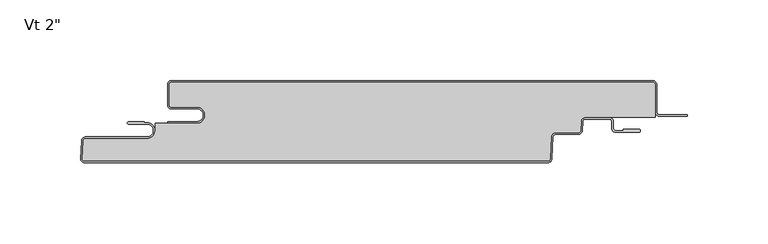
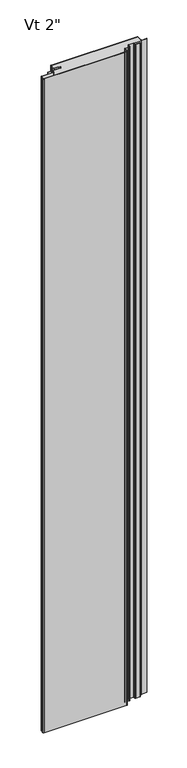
"""IFC4 building model written with IfcOpenShell, lengths in millimetres: plate geometry."""

from ifc_helpers import new_model, si_unit, point, frame, frame_2d, origin, origin_with_axes, place, context, project, spatial, polyline, circle_curve, ellipse_curve, trimmed, segment, composite_curve, outline, extrude, source, transform, mapped, element, save
from ifc_brep_helpers import plane_surface, cylinder_surface, revolved_surface, extruded_surface, advanced_brep


def plate_51471944(model_context):
    return source(origin(), model_context, "Body", "SolidModel", [
        extrude(outline(composite_curve([segment(trimmed(circle_curve(frame_2d((107.3558457, -25.4)), 2.5875), [point((107.3558457, -22.8125))], [point((104.7718918, -25.2645807))], True, "CARTESIAN"), True, "CONTINUOUS"), segment(polyline([(104.7718918, -25.2645807), (104.4698155, -31.028539)]), True, "CONTINUOUS"), segment(trimmed(circle_curve(frame_2d((103.0904585, -30.95625)), 1.38125), [point((104.4698155, -31.028539))], [point((103.0904585, -32.3375))], False, "CARTESIAN"), True, "CONTINUOUS"), segment(polyline([(103.0904585, -32.3375), (88.9198847, -32.3375)]), True, "CONTINUOUS"), segment(trimmed(circle_curve(frame_2d((88.9198847, -34.925)), 2.5875), [point((88.9198847, -32.3375))], [point((86.3359307, -34.7895807))], True, "CARTESIAN"), True, "CONTINUOUS"), segment(polyline([(86.3359307, -34.7895807), (85.6178677, -48.491039)]), True, "CONTINUOUS"), segment(trimmed(circle_curve(frame_2d((84.2385107, -48.41875)), 1.38125), [point((85.6178677, -48.491039))], [point((84.2385107, -49.8))], False, "CARTESIAN"), True, "CONTINUOUS"), segment(polyline([(84.2385107, -49.8), (-203.0781861, -49.8)]), True, "CONTINUOUS"), segment(trimmed(circle_curve(frame_2d((-203.0781861, -48.41875)), 1.38125), [point((-203.0781861, -49.8))], [point((-204.4575431, -48.346461))], False, "CARTESIAN"), True, "CONTINUOUS"), segment(polyline([(-204.4575431, -48.346461), (-203.8751617, -37.233961)]), True, "CONTINUOUS"), segment(trimmed(circle_curve(frame_2d((-202.4958046, -37.30625)), 1.38125), [point((-203.8751617, -37.233961))], [point((-202.4958046, -35.925))], False, "CARTESIAN"), True, "CONTINUOUS"), segment(polyline([(-202.4958046, -35.925), (-164.3125, -35.925)]), True, "CONTINUOUS"), segment(trimmed(circle_curve(frame_2d((-164.3125, -30.95625)), 4.96875), [point((-164.3125, -35.925))], [point((-159.34375, -30.95625))], True, "CARTESIAN"), True, "CONTINUOUS"), segment(polyline([(-159.34375, -30.95625), (-159.34375, -26.4), (-133.35625, -26.4)]), True, "CONTINUOUS"), segment(trimmed(circle_curve(frame_2d((-133.35625, -21.43125)), 4.96875), [point((-133.35625, -26.4))], [point((-133.35625, -16.4625))], True, "CARTESIAN"), True, "CONTINUOUS"), segment(polyline([(-133.35625, -16.4625), (-149.23125, -16.4625)]), True, "CONTINUOUS"), segment(trimmed(circle_curve(frame_2d((-149.23125, -15.08125)), 1.38125), [point((-149.23125, -16.4625))], [point((-150.6125, -15.08125))], False, "CARTESIAN"), True, "CONTINUOUS"), segment(polyline([(-150.6125, -15.08125), (-150.6125, -2.38125)]), True, "CONTINUOUS"), segment(trimmed(circle_curve(frame_2d((-149.23125, -2.38125)), 1.38125), [point((-150.6125, -2.38125))], [point((-149.23125, -1.0))], False, "CARTESIAN"), True, "CONTINUOUS"), segment(polyline([(-149.23125, -1.0), (149.21875, -1.0)]), True, "CONTINUOUS"), segment(trimmed(circle_curve(frame_2d((149.21875, -2.38125)), 1.38125), [point((149.21875, -1.0))], [point((150.6, -2.38125))], False, "CARTESIAN"), True, "CONTINUOUS"), segment(polyline([(150.6, -2.38125), (150.6, -22.8125), (107.3558457, -22.8125)]), True, "CONTINUOUS")], self_intersect=False)), origin_with_axes(), (0.0, 0.0, 1.0), 2400.0),
        extrude(outline(composite_curve([segment(polyline([(-151.6125, -25.4), (-133.35625, -25.4)]), True, "CONTINUOUS"), segment(trimmed(circle_curve(frame_2d((-133.35625, -21.43125)), 3.96875), [point((-133.35625, -25.4))], [point((-133.35625, -17.4625))], True, "CARTESIAN"), True, "CONTINUOUS"), segment(polyline([(-133.35625, -17.4625), (-149.23125, -17.4625)]), True, "CONTINUOUS"), segment(trimmed(circle_curve(frame_2d((-149.23125, -15.08125)), 2.38125), [point((-149.23125, -17.4625))], [point((-151.6125, -15.08125))], False, "CARTESIAN"), True, "CONTINUOUS"), segment(polyline([(-151.6125, -15.08125), (-151.6125, -2.38125)]), True, "CONTINUOUS"), segment(trimmed(circle_curve(frame_2d((-149.23125, -2.38125)), 2.38125), [point((-151.6125, -2.38125))], [point((-149.23125, 0.0))], False, "CARTESIAN"), True, "CONTINUOUS"), segment(polyline([(-149.23125, 0.0), (149.21875, 0.0)]), True, "CONTINUOUS"), segment(trimmed(circle_curve(frame_2d((149.21875, -2.38125)), 2.38125), [point((149.21875, 0.0))], [point((151.6, -2.38125))], False, "CARTESIAN"), True, "CONTINUOUS"), segment(polyline([(151.6, -2.38125), (151.6, -19.446875)]), True, "CONTINUOUS"), segment(trimmed(circle_curve(frame_2d((153.1875, -19.446875)), 1.5875), [point((151.6, -19.446875))], [point((153.1875, -21.034375))], True, "CARTESIAN"), True, "CONTINUOUS"), segment(polyline([(153.1875, -21.034375), (170.65, -21.034375), (170.65, -22.034375), (153.1875, -22.034375)]), True, "CONTINUOUS"), segment(trimmed(circle_curve(frame_2d((153.1875, -19.446875)), 2.5875), [point((153.1875, -22.034375))], [point((150.6, -19.446875))], False, "CARTESIAN"), True, "CONTINUOUS"), segment(polyline([(150.6, -19.446875), (150.6, -2.38125)]), True, "CONTINUOUS"), segment(trimmed(circle_curve(frame_2d((149.21875, -2.38125)), 1.38125), [point((150.6, -2.38125))], [point((149.21875, -1.0))], True, "CARTESIAN"), True, "CONTINUOUS"), segment(polyline([(149.21875, -1.0), (-149.23125, -1.0)]), True, "CONTINUOUS"), segment(trimmed(circle_curve(frame_2d((-149.23125, -2.38125)), 1.38125), [point((-149.23125, -1.0))], [point((-150.6125, -2.38125))], True, "CARTESIAN"), True, "CONTINUOUS"), segment(polyline([(-150.6125, -2.38125), (-150.6125, -15.08125)]), True, "CONTINUOUS"), segment(trimmed(circle_curve(frame_2d((-149.23125, -15.08125)), 1.38125), [point((-150.6125, -15.08125))], [point((-149.23125, -16.4625))], True, "CARTESIAN"), True, "CONTINUOUS"), segment(polyline([(-149.23125, -16.4625), (-133.35625, -16.4625)]), True, "CONTINUOUS"), segment(trimmed(circle_curve(frame_2d((-133.35625, -21.43125)), 4.96875), [point((-133.35625, -16.4625))], [point((-133.35625, -26.4))], False, "CARTESIAN"), True, "CONTINUOUS"), segment(polyline([(-133.35625, -26.4), (-151.6125, -26.4), (-151.6125, -25.4)]), True, "CONTINUOUS")], self_intersect=False)), origin_with_axes(), (0.0, 0.0, 1.0), 2400.0),
        advanced_brep(
        [(-175.6377049, -25.4, 2400.0), (-175.6377049, -26.9875, 2400.0), (-164.3267674, -26.9875, 2400.0), (-164.3267674, -34.925, 2400.0), (-202.5100721, -34.925, 2400.0), (-204.8880586, -37.181625, 2400.0), (-205.4704401, -48.294125, 2400.0), (-203.0924535, -50.8, 2400.0), (84.2385107, -50.8, 2400.0), (86.6164973, -48.543375, 2400.0), (87.3345603, -34.8419167, 2400.0), (88.9198847, -33.3375, 2400.0), (103.0761911, -33.3375, 2400.0), (105.4541776, -31.080875, 2400.0), (105.7562539, -25.3169167, 2400.0), (107.3415783, -23.8125, 2400.0), (122.2169826, -23.8125, 2400.0), (123.8044826, -25.4, 2400.0), (123.8044826, -29.5671875, 2400.0), (126.1857326, -31.9484375, 2400.0), (140.6773532, -31.9484375, 2400.0), (140.6773532, -30.1546875, 2400.0), (130.9482326, -30.1546875, 2400.0), (130.9482326, -30.9484375, 2400.0), (126.1857326, -30.9484375, 2400.0), (124.8044826, -29.5671875, 2400.0), (124.8044826, -25.4, 2400.0), (122.2169826, -22.8125, 2400.0), (107.3415783, -22.8125, 2400.0), (104.7576244, -25.2645807, 2400.0), (104.4555481, -31.028539, 2400.0), (103.0761911, -32.3375, 2400.0), (88.9198847, -32.3375, 2400.0), (86.3359307, -34.7895807, 2400.0), (85.6178677, -48.491039, 2400.0), (84.2385107, -49.8, 2400.0), (-203.0924535, -49.8, 2400.0), (-204.4718106, -48.346461, 2400.0), (-203.8894291, -37.233961, 2400.0), (-202.5100721, -35.925, 2400.0), (-164.3267674, -35.925, 2400.0), (-164.3267674, -25.9875, 2400.0), (-165.9142674, -26.19375, 2400.0), (-165.9142674, -25.4, 2400.0), (-175.6377049, -25.4, 0.0), (-165.9142674, -25.4, 0.0), (-165.9142674, -26.19375, 0.0), (-164.3267674, -25.9875, 0.0), (-164.3267674, -35.925, 0.0), (-202.5100721, -35.925, 0.0), (-203.8894291, -37.233961, 0.0), (-204.4718106, -48.346461, 0.0), (-203.0924535, -49.8, 0.0), (84.2385107, -49.8, 0.0), (85.6178677, -48.491039, 0.0), (86.3359307, -34.7895807, 0.0), (88.9198847, -32.3375, 0.0), (103.0761911, -32.3375, 0.0), (104.4555481, -31.028539, 0.0), (104.7576244, -25.2645807, 0.0), (107.3415783, -22.8125, 0.0), (122.2169826, -22.8125, 0.0), (124.8044826, -25.4, 0.0), (124.8044826, -29.5671875, 0.0), (126.1857326, -30.9484375, 0.0), (130.9482326, -30.9484375, 0.0), (130.9482326, -30.1546875, 0.0), (140.6773532, -30.1546875, 0.0), (140.6773532, -31.9484375, 0.0), (126.1857326, -31.9484375, 0.0), (123.8044826, -29.5671875, 0.0), (123.8044826, -25.4, 0.0), (122.2169826, -23.8125, 0.0), (107.3415783, -23.8125, 0.0), (105.7562539, -25.3169167, 0.0), (105.4541776, -31.080875, 0.0), (103.0761911, -33.3375, 0.0), (88.9198847, -33.3375, 0.0), (87.3345603, -34.8419167, 0.0), (86.6164973, -48.543375, 0.0), (84.2385107, -50.8, 0.0), (-203.0924535, -50.8, 0.0), (-205.4704401, -48.294125, 0.0), (-204.8880586, -37.181625, 0.0), (-202.5100721, -34.925, 0.0), (-164.3267674, -34.925, 0.0), (-164.3267674, -26.9875, 0.0), (-175.6377049, -26.9875, 0.0)],
        [
            (0, 1, circle_curve(frame((-175.6377049, -26.19375, 2400.0), z_axis=(0.0, 0.0, 1.0), x_axis=(-1.0, 0.0, 0.0)), 0.79375)),
            (1, 2),
            (2, 3, circle_curve(frame((-164.3267674, -30.95625, 2400.0), z_axis=(0.0, 0.0, -1.0), x_axis=(-1.0, 0.0, 0.0)), 3.96875)),
            (3, 4),
            (4, 5, circle_curve(frame((-202.5100721, -37.30625, 2400.0), z_axis=(0.0, 0.0, 1.0), x_axis=(-1.0, 0.0, 0.0)), 2.38125)),
            (5, 6),
            (6, 7, circle_curve(frame((-203.0924535, -48.41875, 2400.0), z_axis=(0.0, 0.0, 1.0), x_axis=(-1.0, 0.0, 0.0)), 2.38125)),
            (7, 8),
            (8, 9, circle_curve(frame((84.2385107, -48.41875, 2400.0), z_axis=(0.0, 0.0, 1.0), x_axis=(-1.0, 0.0, 0.0)), 2.38125)),
            (9, 10),
            (10, 11, circle_curve(frame((88.9198847, -34.925, 2400.0), z_axis=(0.0, 0.0, -1.0), x_axis=(-1.0, 0.0, 0.0)), 1.5875)),
            (11, 12),
            (12, 13, circle_curve(frame((103.0761911, -30.95625, 2400.0), z_axis=(0.0, 0.0, 1.0), x_axis=(-1.0, 0.0, 0.0)), 2.38125)),
            (13, 14),
            (14, 15, circle_curve(frame((107.3415783, -25.4, 2400.0), z_axis=(0.0, 0.0, -1.0), x_axis=(-1.0, 0.0, 0.0)), 1.5875)),
            (15, 16),
            (16, 17, circle_curve(frame((122.2169826, -25.4, 2400.0), z_axis=(0.0, 0.0, -1.0), x_axis=(-1.0, 0.0, 0.0)), 1.5875)),
            (17, 18),
            (18, 19, circle_curve(frame((126.1857326, -29.5671875, 2400.0), z_axis=(0.0, 0.0, 1.0), x_axis=(-1.0, 0.0, 0.0)), 2.38125)),
            (19, 20),
            (20, 21, ellipse_curve(frame((140.6773532, -31.0515625, 2400.0), z_axis=(0.0, 0.0, 1.0), x_axis=(0.0, 1.0, 0.0)), 0.896875, 0.7852275)),
            (21, 22),
            (22, 23),
            (23, 24),
            (24, 25, circle_curve(frame((126.1857326, -29.5671875, 2400.0), z_axis=(0.0, 0.0, -1.0), x_axis=(-1.0, 0.0, 0.0)), 1.38125)),
            (25, 26),
            (26, 27, circle_curve(frame((122.2169826, -25.4, 2400.0), z_axis=(0.0, 0.0, 1.0), x_axis=(-1.0, 0.0, 0.0)), 2.5875)),
            (27, 28),
            (28, 29, circle_curve(frame((107.3415783, -25.4, 2400.0), z_axis=(0.0, 0.0, 1.0), x_axis=(-1.0, 0.0, 0.0)), 2.5875)),
            (29, 30),
            (30, 31, circle_curve(frame((103.0761911, -30.95625, 2400.0), z_axis=(0.0, 0.0, -1.0), x_axis=(-1.0, 0.0, 0.0)), 1.38125)),
            (31, 32),
            (32, 33, circle_curve(frame((88.9198847, -34.925, 2400.0), z_axis=(0.0, 0.0, 1.0), x_axis=(-1.0, 0.0, 0.0)), 2.5875)),
            (33, 34),
            (34, 35, circle_curve(frame((84.2385107, -48.41875, 2400.0), z_axis=(0.0, 0.0, -1.0), x_axis=(-1.0, 0.0, 0.0)), 1.38125)),
            (35, 36),
            (36, 37, circle_curve(frame((-203.0924535, -48.41875, 2400.0), z_axis=(0.0, 0.0, -1.0), x_axis=(-1.0, 0.0, 0.0)), 1.38125)),
            (37, 38),
            (38, 39, circle_curve(frame((-202.5100721, -37.30625, 2400.0), z_axis=(0.0, 0.0, -1.0), x_axis=(-1.0, 0.0, 0.0)), 1.38125)),
            (39, 40),
            (40, 41, circle_curve(frame((-164.3267674, -30.95625, 2400.0), z_axis=(0.0, 0.0, 1.0), x_axis=(-1.0, 0.0, 0.0)), 4.96875)),
            (41, 42),
            (42, 43),
            (43, 0),
            (44, 45),
            (45, 46),
            (46, 47),
            (47, 48, circle_curve(frame((-164.3267674, -30.95625, 0.0), z_axis=(0.0, 0.0, -1.0), x_axis=(-1.0, 0.0, 0.0)), 4.96875)),
            (48, 49),
            (49, 50, circle_curve(frame((-202.5100721, -37.30625, 0.0), z_axis=(0.0, 0.0, 1.0), x_axis=(-1.0, 0.0, 0.0)), 1.38125)),
            (50, 51),
            (51, 52, circle_curve(frame((-203.0924535, -48.41875, 0.0), z_axis=(0.0, 0.0, 1.0), x_axis=(-1.0, 0.0, 0.0)), 1.38125)),
            (52, 53),
            (53, 54, circle_curve(frame((84.2385107, -48.41875, 0.0), z_axis=(0.0, 0.0, 1.0), x_axis=(-1.0, 0.0, 0.0)), 1.38125)),
            (54, 55),
            (55, 56, circle_curve(frame((88.9198847, -34.925, 0.0), z_axis=(0.0, 0.0, -1.0), x_axis=(-1.0, 0.0, 0.0)), 2.5875)),
            (56, 57),
            (57, 58, circle_curve(frame((103.0761911, -30.95625, 0.0), z_axis=(0.0, 0.0, 1.0), x_axis=(-1.0, 0.0, 0.0)), 1.38125)),
            (58, 59),
            (59, 60, circle_curve(frame((107.3415783, -25.4, 0.0), z_axis=(0.0, 0.0, -1.0), x_axis=(-1.0, 0.0, 0.0)), 2.5875)),
            (60, 61),
            (61, 62, circle_curve(frame((122.2169826, -25.4, 0.0), z_axis=(0.0, 0.0, -1.0), x_axis=(-1.0, 0.0, 0.0)), 2.5875)),
            (62, 63),
            (63, 64, circle_curve(frame((126.1857326, -29.5671875, 0.0), z_axis=(0.0, 0.0, 1.0), x_axis=(-1.0, 0.0, 0.0)), 1.38125)),
            (64, 65),
            (65, 66),
            (66, 67),
            (67, 68, ellipse_curve(frame((140.6773532, -31.0515625, 0.0), z_axis=(0.0, 0.0, -1.0), x_axis=(0.0, 1.0, 0.0)), 0.896875, 0.7852275)),
            (68, 69),
            (69, 70, circle_curve(frame((126.1857326, -29.5671875, 0.0), z_axis=(0.0, 0.0, -1.0), x_axis=(-1.0, 0.0, 0.0)), 2.38125)),
            (70, 71),
            (71, 72, circle_curve(frame((122.2169826, -25.4, 0.0), z_axis=(0.0, 0.0, 1.0), x_axis=(-1.0, 0.0, 0.0)), 1.5875)),
            (72, 73),
            (73, 74, circle_curve(frame((107.3415783, -25.4, 0.0), z_axis=(0.0, 0.0, 1.0), x_axis=(-1.0, 0.0, 0.0)), 1.5875)),
            (74, 75),
            (75, 76, circle_curve(frame((103.0761911, -30.95625, 0.0), z_axis=(0.0, 0.0, -1.0), x_axis=(-1.0, 0.0, 0.0)), 2.38125)),
            (76, 77),
            (77, 78, circle_curve(frame((88.9198847, -34.925, 0.0), z_axis=(0.0, 0.0, 1.0), x_axis=(-1.0, 0.0, 0.0)), 1.5875)),
            (78, 79),
            (79, 80, circle_curve(frame((84.2385107, -48.41875, 0.0), z_axis=(0.0, 0.0, -1.0), x_axis=(-1.0, 0.0, 0.0)), 2.38125)),
            (80, 81),
            (81, 82, circle_curve(frame((-203.0924535, -48.41875, 0.0), z_axis=(0.0, 0.0, -1.0), x_axis=(-1.0, 0.0, 0.0)), 2.38125)),
            (82, 83),
            (83, 84, circle_curve(frame((-202.5100721, -37.30625, 0.0), z_axis=(0.0, 0.0, -1.0), x_axis=(-1.0, 0.0, 0.0)), 2.38125)),
            (84, 85),
            (85, 86, circle_curve(frame((-164.3267674, -30.95625, 0.0), z_axis=(0.0, 0.0, 1.0), x_axis=(-1.0, 0.0, 0.0)), 3.96875)),
            (86, 87),
            (87, 44, circle_curve(frame((-175.6377049, -26.19375, 0.0), z_axis=(0.0, 0.0, -1.0), x_axis=(-1.0, 0.0, 0.0)), 0.79375)),
            (43, 45),
            (44, 0),
            (87, 1),
            (86, 2),
            (85, 3),
            (84, 4),
            (83, 5),
            (82, 6),
            (81, 7),
            (80, 8),
            (79, 9),
            (78, 10),
            (77, 11),
            (76, 12),
            (75, 13),
            (74, 14),
            (73, 15),
            (38, 50),
            (49, 39),
            (37, 51),
            (36, 52),
            (35, 53),
            (34, 54),
            (33, 55),
            (32, 56),
            (31, 57),
            (30, 58),
            (29, 59),
            (28, 60),
            (23, 65),
            (64, 24),
            (63, 25),
            (62, 26),
            (72, 16),
            (71, 17),
            (70, 18),
            (69, 19),
            (68, 20),
            (27, 61),
            (48, 40),
            (47, 41),
            (42, 46),
            (22, 66),
            (21, 67),
        ],
        [
            plane_surface(frame((-0.00625, -50.8, 2400.0), z_axis=(0.0, 0.0, 1.0), x_axis=(0.0, -1.0, 0.0))),
            plane_surface(frame((-0.00625, -50.8, 0.0), z_axis=(0.0, 0.0, -1.0), x_axis=(0.0, -1.0, 0.0))),
            plane_surface(frame((-175.6377049, -25.4, 2400.0), z_axis=(0.0, 1.0, 0.0), x_axis=(0.0, 0.0, -1.0))),
            cylinder_surface(frame((-175.6377049, -26.19375, 2400.0), z_axis=(0.0, 0.0, 1.0), x_axis=(-1.0, 0.0, 0.0)), 0.79375),
            plane_surface(frame((-164.3267674, -26.9875, 2400.0), z_axis=(0.0, -1.0, 0.0), x_axis=(0.0, 0.0, -1.0))),
            revolved_surface(polyline([(-168.2955174, -30.95625, 0.0), (-168.2955174, -30.95625, 2400.0)]), (-164.3267674, -30.95625, 2400.0), (0.0, 0.0, -1.0)),
            plane_surface(frame((-202.5100721, -34.925, 2400.0), z_axis=(0.0, 1.0, 0.0), x_axis=(0.0, 0.0, -1.0))),
            cylinder_surface(frame((-202.5100721, -37.30625, 2400.0), z_axis=(0.0, 0.0, 1.0), x_axis=(-1.0, 0.0, 0.0)), 2.38125),
            plane_surface(frame((-205.4704401, -48.294125, 2400.0), z_axis=(-0.9986295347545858, 0.052335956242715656, 0.0), x_axis=(0.0, 0.0, -1.0))),
            cylinder_surface(frame((-203.0924535, -48.41875, 2400.0), z_axis=(0.0, 0.0, 1.0), x_axis=(-1.0, 0.0, 0.0)), 2.38125),
            plane_surface(frame((84.2385107, -50.8, 2400.0), z_axis=(0.0, -1.0, 0.0), x_axis=(0.0, 0.0, -1.0))),
            cylinder_surface(frame((84.2385107, -48.41875, 2400.0), z_axis=(0.0, 0.0, 1.0), x_axis=(-1.0, 0.0, 0.0)), 2.38125),
            plane_surface(frame((87.3345603, -34.8419167, 2400.0), z_axis=(0.9986295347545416, -0.05233595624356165, 0.0), x_axis=(0.0, 0.0, -1.0))),
            revolved_surface(polyline([(87.33238469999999, -34.925, 0.0), (87.33238469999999, -34.925, 2400.0)]), (88.9198847, -34.925, 2400.0), (0.0, 0.0, -1.0)),
            plane_surface(frame((103.0761911, -33.3375, 2400.0), z_axis=(0.0, -1.0, 0.0), x_axis=(0.0, 0.0, -1.0))),
            cylinder_surface(frame((103.0761911, -30.95625, 2400.0), z_axis=(0.0, 0.0, 1.0), x_axis=(-1.0, 0.0, 0.0)), 2.38125),
            plane_surface(frame((105.7562539, -25.3169167, 2400.0), z_axis=(0.9986295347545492, -0.052335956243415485, 0.0), x_axis=(0.0, 0.0, -1.0))),
            revolved_surface(polyline([(105.75407829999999, -25.4, 0.0), (105.75407829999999, -25.4, 2400.0)]), (107.3415783, -25.4, 2400.0), (0.0, 0.0, -1.0)),
            revolved_surface(polyline([(-203.8913221, -37.30625, 0.0), (-203.8913221, -37.30625, 2400.0)]), (-202.5100721, -37.30625, 2400.0), (0.0, 0.0, -1.0)),
            plane_surface(frame((-203.8894291, -37.233961, 2400.0), z_axis=(0.9986295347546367, -0.05233595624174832, 0.0), x_axis=(0.0, 0.0, -1.0))),
            revolved_surface(polyline([(-204.4737035, -48.41875, 0.0), (-204.4737035, -48.41875, 2400.0)]), (-203.0924535, -48.41875, 2400.0), (0.0, 0.0, -1.0)),
            plane_surface(frame((-203.0924535, -49.8, 2400.0), z_axis=(0.0, 1.0, 0.0), x_axis=(0.0, 0.0, -1.0))),
            revolved_surface(polyline([(82.85726070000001, -48.41875, 0.0), (82.85726070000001, -48.41875, 2400.0)]), (84.2385107, -48.41875, 2400.0), (0.0, 0.0, -1.0)),
            plane_surface(frame((85.6178677, -48.491039, 2400.0), z_axis=(-0.9986295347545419, 0.05233595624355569, 0.0), x_axis=(0.0, 0.0, -1.0))),
            cylinder_surface(frame((88.9198847, -34.925, 2400.0), z_axis=(0.0, 0.0, 1.0), x_axis=(-1.0, 0.0, 0.0)), 2.5875),
            plane_surface(frame((88.9198847, -32.3375, 2400.0), z_axis=(0.0, 1.0, 0.0), x_axis=(0.0, 0.0, -1.0))),
            revolved_surface(polyline([(101.69494110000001, -30.95625, 0.0), (101.69494110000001, -30.95625, 2400.0)]), (103.0761911, -30.95625, 2400.0), (0.0, 0.0, -1.0)),
            plane_surface(frame((104.4555481, -31.028539, 2400.0), z_axis=(-0.9986295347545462, 0.05233595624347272, 0.0), x_axis=(0.0, 0.0, -1.0))),
            cylinder_surface(frame((107.3415783, -25.4, 2400.0), z_axis=(0.0, 0.0, 1.0), x_axis=(-1.0, 0.0, 0.0)), 2.5875),
            plane_surface(frame((126.1857326, -30.9484375, 2400.0), z_axis=(0.0, 1.0, 0.0), x_axis=(0.0, 0.0, -1.0))),
            revolved_surface(polyline([(124.8044826, -29.5671875, 0.0), (124.8044826, -29.5671875, 2400.0)]), (126.1857326, -29.5671875, 2400.0), (0.0, 0.0, -1.0)),
            plane_surface(frame((124.8044826, -25.4, 2400.0), z_axis=(1.0, 0.0, 0.0), x_axis=(0.0, 0.0, -1.0))),
            plane_surface(frame((122.2169826, -23.8125, 2400.0), z_axis=(0.0, -1.0, 0.0), x_axis=(0.0, 0.0, -1.0))),
            revolved_surface(polyline([(120.62948259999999, -25.4, 0.0), (120.62948259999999, -25.4, 2400.0)]), (122.2169826, -25.4, 2400.0), (0.0, 0.0, -1.0)),
            plane_surface(frame((123.8044826, -29.5671875, 2400.0), z_axis=(-1.0, 0.0, 0.0), x_axis=(0.0, 0.0, -1.0))),
            cylinder_surface(frame((126.1857326, -29.5671875, 2400.0), z_axis=(0.0, 0.0, 1.0), x_axis=(-1.0, 0.0, 0.0)), 2.38125),
            plane_surface(frame((140.6773532, -31.9484375, 2400.0), z_axis=(0.0, -1.0, 0.0), x_axis=(0.0, 0.0, -1.0))),
            plane_surface(frame((107.3415783, -22.8125, 2400.0), z_axis=(0.0, 1.0, 0.0), x_axis=(0.0, 0.0, -1.0))),
            cylinder_surface(frame((122.2169826, -25.4, 2400.0), z_axis=(0.0, 0.0, 1.0), x_axis=(-1.0, 0.0, 0.0)), 2.5875),
            plane_surface(frame((-164.3267674, -35.925, 2400.0), z_axis=(0.0, -1.0, 0.0), x_axis=(0.0, 0.0, -1.0))),
            cylinder_surface(frame((-164.3267674, -30.95625, 2400.0), z_axis=(0.0, 0.0, 1.0), x_axis=(-1.0, 0.0, 0.0)), 4.96875),
            plane_surface(frame((-165.9142674, -25.4, 2400.0), z_axis=(1.0, 0.0, 0.0), x_axis=(0.0, 0.0, -1.0))),
            plane_surface(frame((-165.9142674, -26.19375, 2400.0), z_axis=(-0.12883844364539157, 0.9916655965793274, 0.0), x_axis=(0.0, 0.0, -1.0))),
            plane_surface(frame((130.9482326, -30.9484375, 2400.0), z_axis=(-1.0, 0.0, 0.0), x_axis=(0.0, 0.0, -1.0))),
            plane_surface(frame((130.9482326, -30.1546875, 2400.0), z_axis=(0.0, 1.0, 0.0), x_axis=(0.0, 0.0, -1.0))),
            extruded_surface(trimmed(ellipse_curve(frame((140.6773532, -31.0515625, 2400.0), z_axis=(0.0, 0.0, -1.0), x_axis=(0.0, 1.0, 0.0)), 0.896875, 0.7852275), [point((140.6773532, -30.1546875, 2400.0))], [point((140.6773532, -31.9484375, 2400.0))], True, "CARTESIAN"), (0.0, 0.0, -2400.0), 2400.0),
        ],
        [
            (0, [[1, 2, 3, 4, 5, 6, 7, 8, 9, 10, 11, 12, 13, 14, 15, 16, 17, 18, 19, 20, 21, 22, 23, 24, 25, 26, 27, 28, 29, 30, 31, 32, 33, 34, 35, 36, 37, 38, 39, 40, 41, 42, 43, 44]]),
            (1, [[45, 46, 47, 48, 49, 50, 51, 52, 53, 54, 55, 56, 57, 58, 59, 60, 61, 62, 63, 64, 65, 66, 67, 68, 69, 70, 71, 72, 73, 74, 75, 76, 77, 78, 79, 80, 81, 82, 83, 84, 85, 86, 87, 88]]),
            (2, [[89, -45, 90, -44]]),
            (3, [[-90, -88, 91, -1]]),
            (4, [[-91, -87, 92, -2]]),
            (5, [[-92, -86, 93, -3]]),
            (6, [[-93, -85, 94, -4]]),
            (7, [[-94, -84, 95, -5]]),
            (8, [[-95, -83, 96, -6]]),
            (9, [[-96, -82, 97, -7]]),
            (10, [[-97, -81, 98, -8]]),
            (11, [[-98, -80, 99, -9]]),
            (12, [[-99, -79, 100, -10]]),
            (13, [[-100, -78, 101, -11]]),
            (14, [[-101, -77, 102, -12]]),
            (15, [[-102, -76, 103, -13]]),
            (16, [[-103, -75, 104, -14]]),
            (17, [[-104, -74, 105, -15]]),
            (18, [[106, -50, 107, -39]]),
            (19, [[108, -51, -106, -38]]),
            (20, [[109, -52, -108, -37]]),
            (21, [[110, -53, -109, -36]]),
            (22, [[111, -54, -110, -35]]),
            (23, [[112, -55, -111, -34]]),
            (24, [[113, -56, -112, -33]]),
            (25, [[114, -57, -113, -32]]),
            (26, [[115, -58, -114, -31]]),
            (27, [[116, -59, -115, -30]]),
            (28, [[117, -60, -116, -29]]),
            (29, [[118, -65, 119, -24]]),
            (30, [[-119, -64, 120, -25]]),
            (31, [[-120, -63, 121, -26]]),
            (32, [[-105, -73, 122, -16]]),
            (33, [[-122, -72, 123, -17]]),
            (34, [[-123, -71, 124, -18]]),
            (35, [[-124, -70, 125, -19]]),
            (36, [[-125, -69, 126, -20]]),
            (37, [[127, -61, -117, -28]]),
            (38, [[-121, -62, -127, -27]]),
            (39, [[-107, -49, 128, -40]]),
            (40, [[-128, -48, 129, -41]]),
            (41, [[130, -46, -89, -43]]),
            (42, [[-129, -47, -130, -42]]),
            (43, [[131, -66, -118, -23]]),
            (44, [[132, -67, -131, -22]]),
            (45, [[-126, -68, -132, -21]]),
        ],
    ),
    ])


if __name__ == "__main__":
    model = new_model("IFC4")
    model_context = context("Model", 3, world=origin())
    ifc_project = project(units=[si_unit("LENGTHUNIT", "METRE", prefix="MILLI")], contexts=[model_context])
    site = spatial("IfcSite", under=ifc_project)
    building = spatial("IfcBuilding", under=site)
    placement = place(None, origin())
    plate_shape = plate_51471944(model_context)
    element("IfcPlate", 1, ObjectType="KIP-12-DWHR-R19-CP-Vt-F : Vt 2\"", at=placement, inside=building, context=model_context, shape_type="MappedRepresentation", body=[
        mapped(plate_shape, transform((0.0, 0.0, 0.0), x_axis=(1.0, 0.0, 0.0), y_axis=(0.0, 1.0, 0.0), z_axis=(0.0, 0.0, 1.0))),
    ])
    save(model, "model.ifc")
